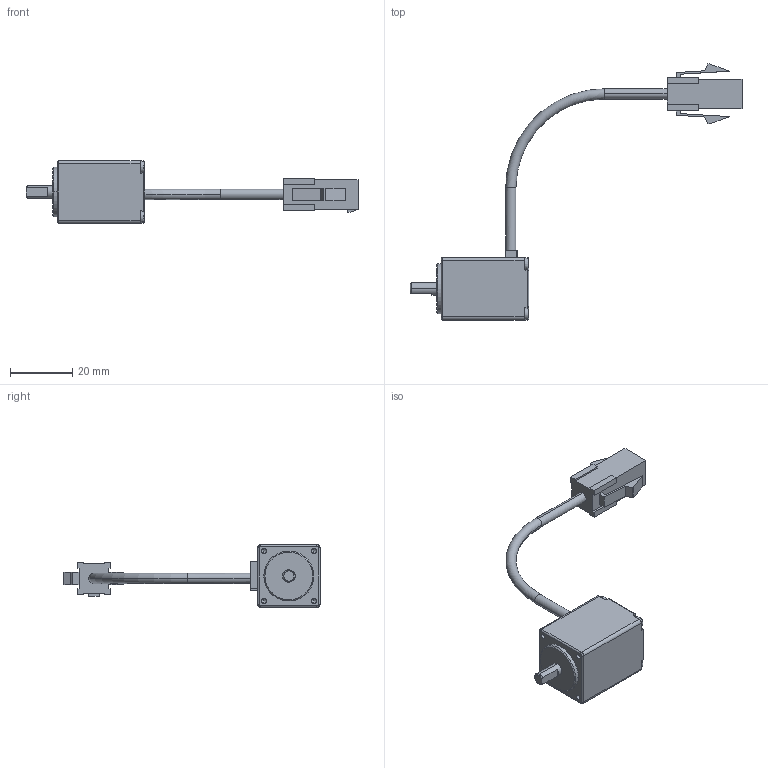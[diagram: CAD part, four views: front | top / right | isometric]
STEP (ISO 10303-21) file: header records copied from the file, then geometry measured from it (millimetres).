
FILE_DESCRIPTION (( 'STEP AP203' ), '1' );
FILE_NAME ('P21-MO-020-01-R01.STEP', '2015-06-29T11:35:01', ( '' ), ( '' ), 'SwSTEP 2.0', 'SolidWorks 2013', '' );
FILE_SCHEMA (( 'CONFIG_CONTROL_DESIGN' ));
Length unit declared in the file: millimetre
Products named in the file (3): M21-MO-020-01-R01; Power_Cable_ル遽; P21-MO-020-01-R01
Assembly tree (2 placements, depth 2):
  P21-MO-020-01-R01
    M21-MO-020-01-R01
    Power_Cable_ル遽
Bounding box: 106.28 x 82.01 x 20 mm (x, y, z)
Volume: 14110.9 mm3; surface area: 6992.6 mm2
Topology: 2 solids, 2 shells, 297 faces, 763 edges, 486 vertices
Faces by surface type: plane 182, cylinder 84, cone 13, bspline 12, torus 6
Entity records: 9847 total; most frequent: CARTESIAN_POINT 2537, ORIENTED_EDGE 1494, DIRECTION 1392, EDGE_CURVE 747, VERTEX_POINT 486, LINE 486, VECTOR 486, AXIS2_PLACEMENT_3D 453
